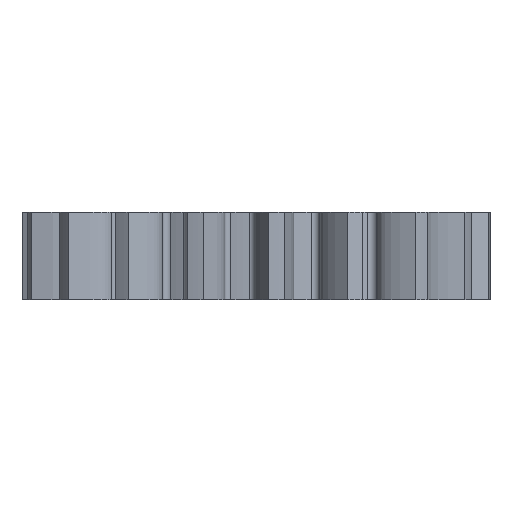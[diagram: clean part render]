
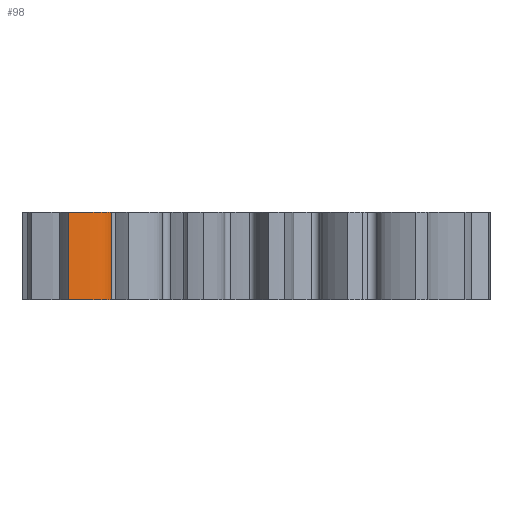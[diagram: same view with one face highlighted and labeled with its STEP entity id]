
A CAD part, left-side view. The second image highlights one B-rep face of the part: STEP entity #98.
In plain terms, the highlighted free-form (B-spline) face has degree [3, 1] with [6, 2] control points.
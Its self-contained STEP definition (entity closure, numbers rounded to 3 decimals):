
#9 = CARTESIAN_POINT ( 'NONE',  ( -20.929, 24.627, 15. ) ) ;
#32 = CARTESIAN_POINT ( 'NONE',  ( -22.399, 25.662, 15. ) ) ;
#51 = CARTESIAN_POINT ( 'NONE',  ( -23.826, 30.494, 15. ) ) ;
#93 = CARTESIAN_POINT ( 'NONE',  ( -23.826, 30.494, 0. ) ) ;
#98 = ADVANCED_FACE ( 'NONE', ( #3721 ), #4495, .F. ) ;
#190 = LINE ( 'NONE', #4571, #730 ) ;
#275 = CARTESIAN_POINT ( 'NONE',  ( -24.045, 31.966, 0. ) ) ;
#451 = CARTESIAN_POINT ( 'NONE',  ( -22.399, 25.662, 15. ) ) ;
#608 = CARTESIAN_POINT ( 'NONE',  ( -20.929, 24.627, 0. ) ) ;
#639 = ORIENTED_EDGE ( 'NONE', *, *, #3553, .T. ) ;
#730 = VECTOR ( 'NONE', #1704, 1000. ) ;
#780 = CARTESIAN_POINT ( 'NONE',  ( -23.499, 28.288, 0. ) ) ;
#1143 = CARTESIAN_POINT ( 'NONE',  ( -20.929, 24.627, 0. ) ) ;
#1164 = CARTESIAN_POINT ( 'NONE',  ( -22.399, 25.662, 0. ) ) ;
#1190 = B_SPLINE_CURVE_WITH_KNOTS ( 'NONE', 3,
 ( #4524, #3497, #2433, #4183, #2009, #608 ),
 .UNSPECIFIED., .F., .F.,
 ( 4, 1, 1, 4 ),
 ( 0., 0.4, 0.6, 0.738 ),
 .UNSPECIFIED. ) ;
#1427 = ORIENTED_EDGE ( 'NONE', *, *, #2746, .F. ) ;
#1704 = DIRECTION ( 'NONE',  ( 0., 0., -1. ) ) ;
#1739 = ORIENTED_EDGE ( 'NONE', *, *, #4104, .T. ) ;
#1784 = CARTESIAN_POINT ( 'NONE',  ( -24.045, 31.966, 15. ) ) ;
#1803 = VERTEX_POINT ( 'NONE', #275 ) ;
#1905 = EDGE_CURVE ( 'NONE', #3221, #4334, #2501, .T. ) ;
#1908 = CARTESIAN_POINT ( 'NONE',  ( -20.929, 24.627, 15. ) ) ;
#2009 = CARTESIAN_POINT ( 'NONE',  ( -21.379, 24.889, 0. ) ) ;
#2139 = ORIENTED_EDGE ( 'NONE', *, *, #1905, .T. ) ;
#2207 = EDGE_LOOP ( 'NONE', ( #639, #2139, #1427, #1739 ) ) ;
#2244 = CARTESIAN_POINT ( 'NONE',  ( -21.379, 24.889, 15. ) ) ;
#2433 = CARTESIAN_POINT ( 'NONE',  ( -23.499, 28.288, 0. ) ) ;
#2501 = LINE ( 'NONE', #3954, #4601 ) ;
#2728 = VERTEX_POINT ( 'NONE', #1784 ) ;
#2746 = EDGE_CURVE ( 'NONE', #2728, #4334, #3982, .T. ) ;
#2865 = CARTESIAN_POINT ( 'NONE',  ( -24.045, 31.966, 15. ) ) ;
#2953 = CARTESIAN_POINT ( 'NONE',  ( -23.826, 30.494, 15. ) ) ;
#2965 = CARTESIAN_POINT ( 'NONE',  ( -23.499, 28.288, 15. ) ) ;
#3221 = VERTEX_POINT ( 'NONE', #3548 ) ;
#3365 = CARTESIAN_POINT ( 'NONE',  ( -24.045, 31.966, 15. ) ) ;
#3497 = CARTESIAN_POINT ( 'NONE',  ( -23.826, 30.494, 0. ) ) ;
#3548 = CARTESIAN_POINT ( 'NONE',  ( -20.929, 24.627, 0. ) ) ;
#3553 = EDGE_CURVE ( 'NONE', #1803, #3221, #1190, .T. ) ;
#3569 = CARTESIAN_POINT ( 'NONE',  ( -23.499, 28.288, 15. ) ) ;
#3591 = DIRECTION ( 'NONE',  ( 0., 0., 1. ) ) ;
#3721 = FACE_OUTER_BOUND ( 'NONE', #2207, .T. ) ;
#3954 = CARTESIAN_POINT ( 'NONE',  ( -20.929, 24.627, 0. ) ) ;
#3982 = B_SPLINE_CURVE_WITH_KNOTS ( 'NONE', 3,
 ( #2865, #2953, #3569, #32, #4001, #9 ),
 .UNSPECIFIED., .F., .F.,
 ( 4, 1, 1, 4 ),
 ( 0., 0.4, 0.6, 0.738 ),
 .UNSPECIFIED. ) ;
#4001 = CARTESIAN_POINT ( 'NONE',  ( -21.379, 24.889, 15. ) ) ;
#4104 = EDGE_CURVE ( 'NONE', #2728, #1803, #190, .T. ) ;
#4126 = CARTESIAN_POINT ( 'NONE',  ( -20.929, 24.627, 15. ) ) ;
#4183 = CARTESIAN_POINT ( 'NONE',  ( -22.399, 25.662, 0. ) ) ;
#4334 = VERTEX_POINT ( 'NONE', #4126 ) ;
#4417 = CARTESIAN_POINT ( 'NONE',  ( -21.379, 24.889, 0. ) ) ;
#4441 = CARTESIAN_POINT ( 'NONE',  ( -24.045, 31.966, 0. ) ) ;
#4495 = B_SPLINE_SURFACE_WITH_KNOTS ( 'NONE', 3, 1, ( 
 ( #3365, #4441 ),
 ( #51, #93 ),
 ( #2965, #780 ),
 ( #451, #1164 ),
 ( #2244, #4417 ),
 ( #1908, #1143 ) ),
 .UNSPECIFIED., .F., .F., .F.,
 ( 4, 1, 1, 4 ),
 ( 2, 2 ),
 ( 0., 0.4, 0.6, 0.738 ),
 ( 0., 1. ),
 .UNSPECIFIED. ) ;
#4524 = CARTESIAN_POINT ( 'NONE',  ( -24.045, 31.966, 0. ) ) ;
#4571 = CARTESIAN_POINT ( 'NONE',  ( -24.045, 31.966, 15. ) ) ;
#4601 = VECTOR ( 'NONE', #3591, 1000. ) ;
